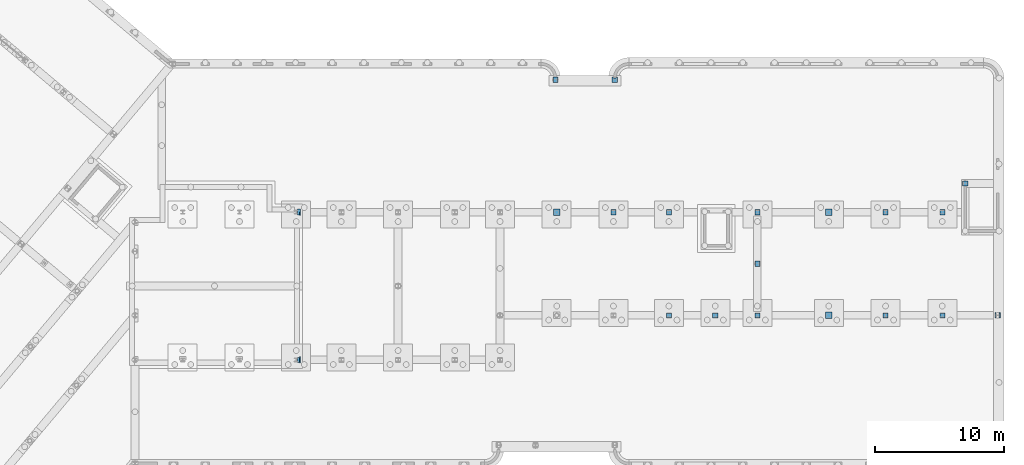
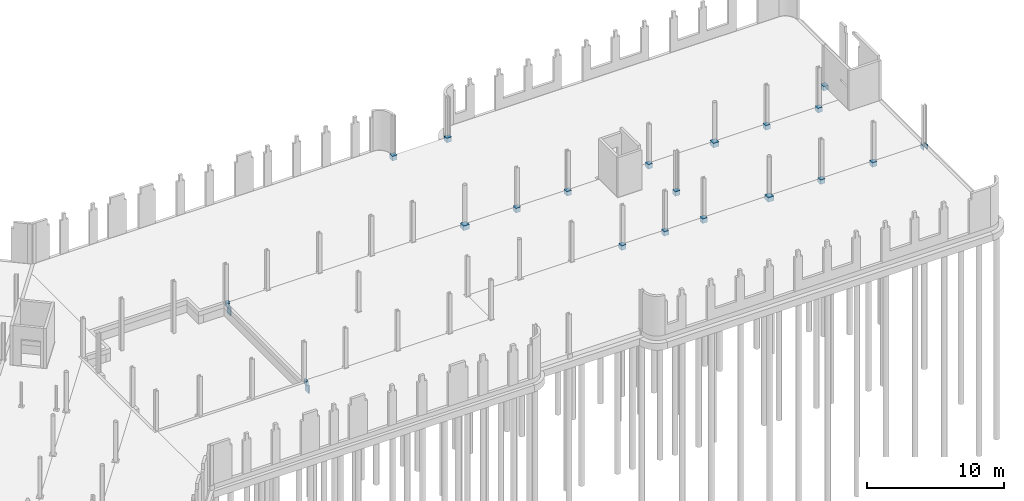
# One storey, part 17 of 26: 20 columns.
"""IFC2X3 building model written with IfcOpenShell, lengths in millimetres."""

from ifc_helpers import new_model, entity, si_unit, converted_unit, derived_unit, direction, frame, frame_2d, origin, place, context, subcontext, project, spatial, polyline, circle_curve, parameter, trimmed, segment, composite_curve, rectangle, outline, extrude, faceted_brep, source, transform, mapped, material, type_object, type_shapes, element, save


model = new_model("IFC2X3")

# Units and contexts
model_context = context("Model", 3, precision=0.01, world=origin(), true_north=direction((6.123031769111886e-17, 1.0)))
body_context = subcontext(model_context, "Body", "Model", "MODEL_VIEW")
ifc_project = project(units=[si_unit("LENGTHUNIT", "METRE", prefix="MILLI"), si_unit("AREAUNIT", "SQUARE_METRE"), si_unit("VOLUMEUNIT", "CUBIC_METRE"), derived_unit("MASSDENSITYUNIT", [(si_unit("MASSUNIT", "GRAM", prefix="KILO"), 1), (si_unit("LENGTHUNIT", "METRE"), -3)]), si_unit("MASSUNIT", "GRAM", prefix="KILO"), converted_unit("PLANEANGLEUNIT", "DEGREE", entity("IfcPlaneAngleMeasure", 0.017453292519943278), si_unit("PLANEANGLEUNIT", "RADIAN"), dimensions=[0, 0, 0, 0, 0, 0, 0])], contexts=[model_context])

# Site, building, storey
site_placement = place(None, origin())
site = spatial("IfcSite", under=ifc_project, at=site_placement, Name="Default", CompositionType="ELEMENT")
building_placement = place(site_placement, origin())
building = spatial("IfcBuilding", under=site, at=building_placement, Name="AT constructie", CompositionType="ELEMENT")
storey_placement = place(building_placement, origin())
storey = spatial("IfcBuildingStorey", under=building, at=storey_placement, Name="00 begane grond", CompositionType="ELEMENT", Elevation=-1.0828671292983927e-12)

# Columns
ifc_material = material(Name="f2_beton ihwg_gen")
column_type_1 = type_object("IfcColumnType", Name="opstorting vierkant_gen_lxb 400x400", PredefinedType="COLUMN", material=ifc_material)
shared_shape_1 = source(origin(), body_context, "Body", "SweptSolid", [
    extrude(outline(composite_curve([segment(polyline([(-213.7082373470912, -134.4444444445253), (-159.290694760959, -134.4444444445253)]), True, "CONTINUOUS"), segment(trimmed(circle_curve(frame_2d((-1106.7082373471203, -64.4444444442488), x_axis=(-1.0, 0.0)), 950.0000000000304), [parameter(175.77437608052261)], [parameter(179.99999999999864)], True, "PARAMETER"), True, "CONTINUOUS"), segment(polyline([(-156.70823734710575, -64.4444444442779), (93.2917626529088, -64.4444444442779)]), True, "CONTINUOUS"), segment(trimmed(circle_curve(frame_2d((-1106.7082373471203, -64.4444444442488), x_axis=(-1.0, 0.0)), 1200.0000000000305), [parameter(176.6558477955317)], [parameter(179.99999999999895)], True, "PARAMETER"), False, "CONTINUOUS"), segment(polyline([(91.24835619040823, -134.4444444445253), (186.2917626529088, -134.4444444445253)]), True, "CONTINUOUS"), segment(polyline([(186.2917626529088, -134.4444444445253), (186.2917626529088, 135.55555555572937)]), True, "CONTINUOUS"), segment(polyline([(186.2917626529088, 135.55555555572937), (186.2917626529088, 265.5555555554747)]), True, "CONTINUOUS"), segment(polyline([(186.2917626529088, 265.5555555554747), (-213.7082373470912, 265.5555555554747)]), True, "CONTINUOUS"), segment(polyline([(-213.7082373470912, 265.5555555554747), (-213.7082373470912, -134.4444444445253)]), True, "CONTINUOUS")], self_intersect=False)), frame((78340.16639376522, 41606.59906408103, -450.0), z_axis=(0.0, 0.0, 1.0), x_axis=(-1.0, 0.0, 0.0)), (0.0, 0.0, 1.0), 400.0),
])
type_shapes(column_type_1, [shared_shape_1])
column_1_placement = place(storey_placement, origin())
element("IfcColumn", 1, at=column_1_placement, inside=storey, type_object=column_type_1, material=ifc_material, Name="NLRS_16_SC_TLB_opstorting beton_gen_AT:opstorting vierkant_gen_lxb 400x400", ObjectType="NLRS_16_SC_TLB_opstorting beton_gen_AT:opstorting vierkant_gen_lxb 400x400", context=body_context, shape_type="MappedRepresentation", body=[
    mapped(shared_shape_1, transform((0.0, 0.0, 0.0), scale=1.0)),
])
column_type_2 = type_object("IfcColumnType", Name="opstorting vierkant_gen_lxb 400x400", PredefinedType="COLUMN", material=ifc_material)
shared_shape_2 = source(origin(), body_context, "Body", "SweptSolid", [
    extrude(rectangle(XDim=399.9999999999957, YDim=399.9999999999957, at=frame_2d((19.624877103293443, 47.14285714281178), x_axis=(1.0, 0.0))), frame((73770.49950641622, 41588.18636566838, -450.0), z_axis=(0.0, 0.0, 1.0), x_axis=(-1.0, 0.0, 0.0)), (0.0, 0.0, 1.0), 400.0),
])
type_shapes(column_type_2, [shared_shape_2])
column_2_placement = place(storey_placement, origin())
element("IfcColumn", 2, at=column_2_placement, inside=storey, type_object=column_type_2, material=ifc_material, Name="NLRS_16_SC_TLB_opstorting beton_gen_AT:opstorting vierkant_gen_lxb 400x400", ObjectType="NLRS_16_SC_TLB_opstorting beton_gen_AT:opstorting vierkant_gen_lxb 400x400", context=body_context, shape_type="MappedRepresentation", body=[
    mapped(shared_shape_2, transform((0.0, 0.0, 0.0), scale=1.0)),
])
column_type_3 = type_object("IfcColumnType", Name="opstorting vierkant_gen_lxb 400x400", PredefinedType="COLUMN", material=ifc_material)
shared_shape_3 = source(origin(), body_context, "Body", "SweptSolid", [
    extrude(rectangle(XDim=399.9999999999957, YDim=400.0, at=frame_2d((5.993452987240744e-07, -66.66666666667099), x_axis=(1.0, 0.0))), frame((105525.87463369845, 33434.376841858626, -450.0), z_axis=(0.0, 0.0, 1.0), x_axis=(-1.0, 0.0, 0.0)), (0.0, 0.0, 1.0), 400.0),
])
type_shapes(column_type_3, [shared_shape_3])
column_3_placement = place(storey_placement, origin())
element("IfcColumn", 3, at=column_3_placement, inside=storey, type_object=column_type_3, material=ifc_material, Name="NLRS_16_SC_TLB_opstorting beton_gen_AT:opstorting vierkant_gen_lxb 400x400", ObjectType="NLRS_16_SC_TLB_opstorting beton_gen_AT:opstorting vierkant_gen_lxb 400x400", context=body_context, shape_type="MappedRepresentation", body=[
    mapped(shared_shape_3, transform((0.0, 0.0, 0.0), scale=1.0)),
])
column_type_4 = type_object("IfcColumnType", Name="opstorting vierkant_gen_lxb 400x400", PredefinedType="COLUMN", material=ifc_material)
shared_shape_4 = source(origin(), body_context, "Body", "SweptSolid", [
    extrude(rectangle(XDim=399.9999999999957, YDim=400.0, at=frame_2d((-8.668621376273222e-12, 1.0828671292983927e-11), x_axis=(1.0, 0.0))), frame((103752.37462931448, 31271.043508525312, -450.0), z_axis=(0.0, 0.0, 1.0), x_axis=(-1.0, 0.0, 0.0)), (0.0, 0.0, 1.0), 400.0),
])
type_shapes(column_type_4, [shared_shape_4])
column_4_placement = place(storey_placement, origin())
element("IfcColumn", 4, at=column_4_placement, inside=storey, type_object=column_type_4, material=ifc_material, Name="NLRS_16_SC_TLB_opstorting beton_gen_AT:opstorting vierkant_gen_lxb 400x400", ObjectType="NLRS_16_SC_TLB_opstorting beton_gen_AT:opstorting vierkant_gen_lxb 400x400", context=body_context, shape_type="MappedRepresentation", body=[
    mapped(shared_shape_4, transform((0.0, 0.0, 0.0), scale=1.0)),
])
column_type_5 = type_object("IfcColumnType", Name="opstorting vierkant_gen_lxb 400x400", PredefinedType="COLUMN", material=ifc_material)
shared_shape_5 = source(origin(), body_context, "Body", "SweptSolid", [
    extrude(rectangle(XDim=102.49999820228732, YDim=400.0, at=frame_2d((0.0, -2.1742607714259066e-12), x_axis=(1.0, 0.0))), frame((108198.1246302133, 23271.04350852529, -450.0), z_axis=(0.0, 0.0, 1.0), x_axis=(-1.0, 0.0, 0.0)), (0.0, 0.0, 1.0), 400.0),
    extrude(rectangle(XDim=47.50000179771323, YDim=400.0, at=frame_2d((4.750000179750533, -6.494360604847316e-12), x_axis=(1.0, 0.0))), frame((107868.37463003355, 23271.0435085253, -450.0)), (0.0, 0.0, 1.0), 400.0),
])
type_shapes(column_type_5, [shared_shape_5])
column_5_placement = place(storey_placement, origin())
element("IfcColumn", 5, at=column_5_placement, inside=storey, type_object=column_type_5, material=ifc_material, Name="NLRS_16_SC_TLB_opstorting beton_gen_AT:opstorting vierkant_gen_lxb 400x400", ObjectType="NLRS_16_SC_TLB_opstorting beton_gen_AT:opstorting vierkant_gen_lxb 400x400", context=body_context, shape_type="MappedRepresentation", body=[
    mapped(shared_shape_5, transform((0.0, 0.0, 0.0), scale=1.0)),
])
column_type_6 = type_object("IfcColumnType", Name="opstorting vierkant_gen_lxb 400x400", PredefinedType="COLUMN", material=ifc_material)
shared_shape_6 = source(origin(), body_context, "Body", "SweptSolid", [
    extrude(rectangle(XDim=399.9999999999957, YDim=400.0, at=frame_2d((-8.668621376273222e-12, 2.1742607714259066e-12), x_axis=(1.0, 0.0))), frame((103752.37462931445, 23271.043508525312, -450.0), z_axis=(0.0, 0.0, 1.0), x_axis=(-1.0, 0.0, 0.0)), (0.0, 0.0, 1.0), 400.0),
])
type_shapes(column_type_6, [shared_shape_6])
column_6_placement = place(storey_placement, origin())
element("IfcColumn", 6, at=column_6_placement, inside=storey, type_object=column_type_6, material=ifc_material, Name="NLRS_16_SC_TLB_opstorting beton_gen_AT:opstorting vierkant_gen_lxb 400x400", ObjectType="NLRS_16_SC_TLB_opstorting beton_gen_AT:opstorting vierkant_gen_lxb 400x400", context=body_context, shape_type="MappedRepresentation", body=[
    mapped(shared_shape_6, transform((0.0, 0.0, 0.0), scale=1.0)),
])
column_type_7 = type_object("IfcColumnType", Name="opstorting vierkant_gen_lxb 400x400", PredefinedType="COLUMN", material=ifc_material)
shared_shape_7 = source(origin(), body_context, "Body", "SweptSolid", [
    extrude(rectangle(XDim=399.9999999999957, YDim=400.0, at=frame_2d((-8.668621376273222e-12, -2.1742607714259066e-12), x_axis=(1.0, 0.0))), frame((99352.37462931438, 23271.043508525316, -450.0), z_axis=(0.0, 0.0, 1.0), x_axis=(-1.0, 0.0, 0.0)), (0.0, 0.0, 1.0), 400.0),
])
type_shapes(column_type_7, [shared_shape_7])
column_7_placement = place(storey_placement, origin())
element("IfcColumn", 7, at=column_7_placement, inside=storey, type_object=column_type_7, material=ifc_material, Name="NLRS_16_SC_TLB_opstorting beton_gen_AT:opstorting vierkant_gen_lxb 400x400", ObjectType="NLRS_16_SC_TLB_opstorting beton_gen_AT:opstorting vierkant_gen_lxb 400x400", context=body_context, shape_type="MappedRepresentation", body=[
    mapped(shared_shape_7, transform((0.0, 0.0, 0.0), scale=1.0)),
])
column_type_8 = type_object("IfcColumnType", Name="opstorting vierkant_gen_lxb 500x500", PredefinedType="COLUMN", material=ifc_material)
shared_shape_8 = source(origin(), body_context, "Body", "SweptSolid", [
    extrude(rectangle(XDim=500.0000000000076, YDim=499.999999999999, at=frame_2d((8.668621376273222e-12, -8.65441052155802e-12), x_axis=(1.0, 0.0))), frame((94952.37462931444, 23271.043508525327, -450.0), z_axis=(0.0, 0.0, 1.0), x_axis=(-1.0, 0.0, 0.0)), (0.0, 0.0, 1.0), 400.0),
])
type_shapes(column_type_8, [shared_shape_8])
column_8_placement = place(storey_placement, origin())
element("IfcColumn", 8, at=column_8_placement, inside=storey, type_object=column_type_8, material=ifc_material, Name="NLRS_16_SC_TLB_opstorting beton_gen_AT:opstorting vierkant_gen_lxb 500x500", ObjectType="NLRS_16_SC_TLB_opstorting beton_gen_AT:opstorting vierkant_gen_lxb 500x500", context=body_context, shape_type="MappedRepresentation", body=[
    mapped(shared_shape_8, transform((0.0, 0.0, 0.0), scale=1.0)),
])
column_type_9 = type_object("IfcColumnType", Name="opstorting vierkant_gen_lxb 400x400", PredefinedType="COLUMN", material=ifc_material)
shared_shape_9 = source(origin(), body_context, "Body", "SweptSolid", [
    extrude(rectangle(XDim=399.9999999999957, YDim=400.0, at=frame_2d((8.668621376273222e-12, -1.5162981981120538e-11), x_axis=(1.0, 0.0))), frame((89407.37463111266, 23271.043508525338, -450.0), z_axis=(0.0, 0.0, 1.0), x_axis=(-1.0, 0.0, 0.0)), (0.0, 0.0, 1.0), 400.0),
])
type_shapes(column_type_9, [shared_shape_9])
column_9_placement = place(storey_placement, origin())
element("IfcColumn", 9, at=column_9_placement, inside=storey, type_object=column_type_9, material=ifc_material, Name="NLRS_16_SC_TLB_opstorting beton_gen_AT:opstorting vierkant_gen_lxb 400x400", ObjectType="NLRS_16_SC_TLB_opstorting beton_gen_AT:opstorting vierkant_gen_lxb 400x400", context=body_context, shape_type="MappedRepresentation", body=[
    mapped(shared_shape_9, transform((0.0, 0.0, 0.0), scale=1.0)),
])
column_type_10 = type_object("IfcColumnType", Name="opstorting vierkant_gen_lxb 400x400", PredefinedType="COLUMN", material=ifc_material)
shared_shape_10 = source(origin(), body_context, "Body", "SweptSolid", [
    extrude(rectangle(XDim=399.9999999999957, YDim=400.0, at=frame_2d((-8.668621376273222e-12, -1.9483081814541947e-11), x_axis=(1.0, 0.0))), frame((86146.87463111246, 23271.04350852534, -450.0), z_axis=(0.0, 0.0, 1.0), x_axis=(-1.0, 0.0, 0.0)), (0.0, 0.0, 1.0), 400.0),
])
type_shapes(column_type_10, [shared_shape_10])
column_10_placement = place(storey_placement, origin())
element("IfcColumn", 10, at=column_10_placement, inside=storey, type_object=column_type_10, material=ifc_material, Name="NLRS_16_SC_TLB_opstorting beton_gen_AT:opstorting vierkant_gen_lxb 400x400", ObjectType="NLRS_16_SC_TLB_opstorting beton_gen_AT:opstorting vierkant_gen_lxb 400x400", context=body_context, shape_type="MappedRepresentation", body=[
    mapped(shared_shape_10, transform((0.0, 0.0, 0.0), scale=1.0)),
])
column_type_11 = type_object("IfcColumnType", Name="opstorting vierkant_gen_lxb 400x400", PredefinedType="COLUMN", material=ifc_material)
shared_shape_11 = source(origin(), body_context, "Body", "SweptSolid", [
    extrude(rectangle(XDim=399.9999999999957, YDim=400.0, at=frame_2d((-8.668621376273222e-12, -1.9483081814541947e-11), x_axis=(1.0, 0.0))), frame((82546.8746311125, 23271.043508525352, -450.0), z_axis=(0.0, 0.0, 1.0), x_axis=(-1.0, 0.0, 0.0)), (0.0, 0.0, 1.0), 400.0),
])
type_shapes(column_type_11, [shared_shape_11])
column_11_placement = place(storey_placement, origin())
element("IfcColumn", 11, at=column_11_placement, inside=storey, type_object=column_type_11, material=ifc_material, Name="NLRS_16_SC_TLB_opstorting beton_gen_AT:opstorting vierkant_gen_lxb 400x400", ObjectType="NLRS_16_SC_TLB_opstorting beton_gen_AT:opstorting vierkant_gen_lxb 400x400", context=body_context, shape_type="MappedRepresentation", body=[
    mapped(shared_shape_11, transform((0.0, 0.0, 0.0), scale=1.0)),
])
column_type_12 = type_object("IfcColumnType", Name="opstorting vierkant_gen_lxb 400x400", PredefinedType="COLUMN", material=ifc_material)
shared_shape_12 = source(origin(), body_context, "Body", "SweptSolid", [
    extrude(rectangle(XDim=399.9999999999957, YDim=400.0, at=frame_2d((8.668621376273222e-12, 2.1742607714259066e-12), x_axis=(1.0, 0.0))), frame((89407.37463111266, 27271.04350852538, -450.0), z_axis=(0.0, 0.0, 1.0), x_axis=(-1.0, 0.0, 0.0)), (0.0, 0.0, 1.0), 400.0),
])
type_shapes(column_type_12, [shared_shape_12])
column_12_placement = place(storey_placement, origin())
element("IfcColumn", 12, at=column_12_placement, inside=storey, type_object=column_type_12, material=ifc_material, Name="NLRS_16_SC_TLB_opstorting beton_gen_AT:opstorting vierkant_gen_lxb 400x400", ObjectType="NLRS_16_SC_TLB_opstorting beton_gen_AT:opstorting vierkant_gen_lxb 400x400", context=body_context, shape_type="MappedRepresentation", body=[
    mapped(shared_shape_12, transform((0.0, 0.0, 0.0), scale=1.0)),
])
column_type_13 = type_object("IfcColumnType", Name="opstorting vierkant_gen_lxb 400x400", PredefinedType="COLUMN", material=ifc_material)
shared_shape_13 = source(origin(), body_context, "Body", "SweptSolid", [
    extrude(rectangle(XDim=399.9999999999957, YDim=400.0, at=frame_2d((8.668621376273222e-12, -2.1742607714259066e-12), x_axis=(1.0, 0.0))), frame((89407.37463111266, 31271.043508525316, -450.0), z_axis=(0.0, 0.0, 1.0), x_axis=(-1.0, 0.0, 0.0)), (0.0, 0.0, 1.0), 400.0),
])
type_shapes(column_type_13, [shared_shape_13])
column_13_placement = place(storey_placement, origin())
element("IfcColumn", 13, at=column_13_placement, inside=storey, type_object=column_type_13, material=ifc_material, Name="NLRS_16_SC_TLB_opstorting beton_gen_AT:opstorting vierkant_gen_lxb 400x400", ObjectType="NLRS_16_SC_TLB_opstorting beton_gen_AT:opstorting vierkant_gen_lxb 400x400", context=body_context, shape_type="MappedRepresentation", body=[
    mapped(shared_shape_13, transform((0.0, 0.0, 0.0), scale=1.0)),
])
column_type_14 = type_object("IfcColumnType", Name="opstorting vierkant_gen_lxb 500x500", PredefinedType="COLUMN", material=ifc_material)
shared_shape_14 = source(origin(), body_context, "Body", "SweptSolid", [
    extrude(rectangle(XDim=500.0000000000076, YDim=499.999999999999, at=frame_2d((-8.668621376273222e-12, 4.334310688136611e-12), x_axis=(1.0, 0.0))), frame((94946.87463111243, 31271.043508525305, -450.0), z_axis=(0.0, 0.0, 1.0), x_axis=(-1.0, 0.0, 0.0)), (0.0, 0.0, 1.0), 400.0),
])
type_shapes(column_type_14, [shared_shape_14])
column_14_placement = place(storey_placement, origin())
element("IfcColumn", 14, at=column_14_placement, inside=storey, type_object=column_type_14, material=ifc_material, Name="NLRS_16_SC_TLB_opstorting beton_gen_AT:opstorting vierkant_gen_lxb 500x500", ObjectType="NLRS_16_SC_TLB_opstorting beton_gen_AT:opstorting vierkant_gen_lxb 500x500", context=body_context, shape_type="MappedRepresentation", body=[
    mapped(shared_shape_14, transform((0.0, 0.0, 0.0), scale=1.0)),
])
column_type_15 = type_object("IfcColumnType", Name="opstorting vierkant_gen_lxb 400x400", PredefinedType="COLUMN", material=ifc_material)
shared_shape_15 = source(origin(), body_context, "Body", "SweptSolid", [
    extrude(rectangle(XDim=399.9999999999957, YDim=400.0, at=frame_2d((8.668621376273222e-12, 1.5162981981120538e-11), x_axis=(1.0, 0.0))), frame((99346.8746311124, 31271.0435085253, -450.0), z_axis=(0.0, 0.0, 1.0), x_axis=(-1.0, 0.0, 0.0)), (0.0, 0.0, 1.0), 400.0),
])
type_shapes(column_type_15, [shared_shape_15])
column_15_placement = place(storey_placement, origin())
element("IfcColumn", 15, at=column_15_placement, inside=storey, type_object=column_type_15, material=ifc_material, Name="NLRS_16_SC_TLB_opstorting beton_gen_AT:opstorting vierkant_gen_lxb 400x400", ObjectType="NLRS_16_SC_TLB_opstorting beton_gen_AT:opstorting vierkant_gen_lxb 400x400", context=body_context, shape_type="MappedRepresentation", body=[
    mapped(shared_shape_15, transform((0.0, 0.0, 0.0), scale=1.0)),
])
column_type_16 = type_object("IfcColumnType", Name="opstorting vierkant_gen_lxb 400x400", PredefinedType="COLUMN", material=ifc_material)
shared_shape_16 = source(origin(), body_context, "Body", "SweptSolid", [
    extrude(rectangle(XDim=399.9999999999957, YDim=400.0, at=frame_2d((8.668621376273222e-12, -1.0828671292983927e-11), x_axis=(1.0, 0.0))), frame((82546.87463111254, 31271.043508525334, -450.0), z_axis=(0.0, 0.0, 1.0), x_axis=(-1.0, 0.0, 0.0)), (0.0, 0.0, 1.0), 400.0),
])
type_shapes(column_type_16, [shared_shape_16])
column_16_placement = place(storey_placement, origin())
element("IfcColumn", 16, at=column_16_placement, inside=storey, type_object=column_type_16, material=ifc_material, Name="NLRS_16_SC_TLB_opstorting beton_gen_AT:opstorting vierkant_gen_lxb 400x400", ObjectType="NLRS_16_SC_TLB_opstorting beton_gen_AT:opstorting vierkant_gen_lxb 400x400", context=body_context, shape_type="MappedRepresentation", body=[
    mapped(shared_shape_16, transform((0.0, 0.0, 0.0), scale=1.0)),
])
column_type_17 = type_object("IfcColumnType", Name="opstorting vierkant_gen_lxb 400x400", PredefinedType="COLUMN", material=ifc_material)
shared_shape_17 = source(origin(), body_context, "Body", "SweptSolid", [
    extrude(rectangle(XDim=399.9999999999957, YDim=400.0, at=frame_2d((8.668621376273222e-12, -1.5162981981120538e-11), x_axis=(1.0, 0.0))), frame((78246.87463111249, 31271.043508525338, -450.0), z_axis=(0.0, 0.0, 1.0), x_axis=(-1.0, 0.0, 0.0)), (0.0, 0.0, 1.0), 400.0),
])
type_shapes(column_type_17, [shared_shape_17])
column_17_placement = place(storey_placement, origin())
element("IfcColumn", 17, at=column_17_placement, inside=storey, type_object=column_type_17, material=ifc_material, Name="NLRS_16_SC_TLB_opstorting beton_gen_AT:opstorting vierkant_gen_lxb 400x400", ObjectType="NLRS_16_SC_TLB_opstorting beton_gen_AT:opstorting vierkant_gen_lxb 400x400", context=body_context, shape_type="MappedRepresentation", body=[
    mapped(shared_shape_17, transform((0.0, 0.0, 0.0), scale=1.0)),
])
column_type_18 = type_object("IfcColumnType", Name="opstorting vierkant_gen_lxb 500x500", PredefinedType="COLUMN", material=ifc_material)
shared_shape_18 = source(origin(), body_context, "Body", "SweptSolid", [
    extrude(rectangle(XDim=499.999999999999, YDim=499.999999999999, at=frame_2d((4.334310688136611e-12, -1.7323031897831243e-11), x_axis=(1.0, 0.0))), frame((73846.87463111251, 31271.043508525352, -450.0), z_axis=(0.0, 0.0, 1.0), x_axis=(-1.0, 0.0, 0.0)), (0.0, 0.0, 1.0), 400.0),
])
type_shapes(column_type_18, [shared_shape_18])
column_18_placement = place(storey_placement, origin())
element("IfcColumn", 18, at=column_18_placement, inside=storey, type_object=column_type_18, material=ifc_material, Name="NLRS_16_SC_TLB_opstorting beton_gen_AT:opstorting vierkant_gen_lxb 500x500", ObjectType="NLRS_16_SC_TLB_opstorting beton_gen_AT:opstorting vierkant_gen_lxb 500x500", context=body_context, shape_type="MappedRepresentation", body=[
    mapped(shared_shape_18, transform((0.0, 0.0, 0.0), scale=1.0)),
])
column_type_19 = type_object("IfcColumnType", Name="opstorting vierkant_gen_lxb 500x500", PredefinedType="COLUMN", material=ifc_material)
shared_shape_19 = source(origin(), body_context, "Body", "Brep", [
    faceted_brep([(53896.87463111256, 19621.043508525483, -50.0), (53896.87463111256, 19821.04350852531, -50.0), (53896.87463111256, 20021.04350852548, -50.0), (53746.87463111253, 20021.04350852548, -50.0), (53746.87463111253, 19621.043508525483, -50.0), (53996.87463111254, 20071.043508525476, -1154.0), (53996.87463111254, 19571.04350852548, -1154.0), (53896.87463111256, 19571.04350852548, -1154.0), (53896.87463111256, 20071.043508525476, -1154.0), (53896.87463111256, 20071.043508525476, -1050.0), (53896.87463111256, 20071.043508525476, -450.0), (53996.87463111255, 20071.043508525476, -450.0), (53996.87463111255, 20071.043508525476, -1050.0), (53896.87463111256, 19571.04350852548, -450.0), (53896.87463111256, 19571.04350852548, -1050.0), (53996.87463111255, 19571.04350852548, -1050.0), (53996.87463111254, 19571.04350852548, -450.0), (53746.87463111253, 20021.04350852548, -450.0), (53746.87463111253, 19621.043508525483, -450.0), (53896.87463111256, 20021.04350852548, -450.0), (53896.87463111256, 19821.04350852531, -450.0), (53896.87463111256, 19621.043508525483, -450.0)], [[[0, 1, 2, 3, 4]], [[5, 6, 7, 8]], [[8, 9, 10, 11, 12, 5]], [[13, 14, 7, 6, 15, 16]], [[6, 5, 12, 11, 16, 15]], [[3, 17, 18, 4]], [[17, 19, 20, 21, 18]], [[8, 7, 14, 13, 21, 20, 19, 10, 9]], [[21, 13, 16, 11, 10, 19, 20]], [[21, 20, 19, 2, 1, 0]], [[2, 19, 17, 3]], [[21, 0, 4, 18]]]),
])
type_shapes(column_type_19, [shared_shape_19])
column_19_placement = place(storey_placement, origin())
element("IfcColumn", 19, at=column_19_placement, inside=storey, type_object=column_type_19, material=ifc_material, Name="NLRS_16_SC_TLB_opstorting beton_gen_AT:opstorting vierkant_gen_lxb 500x500", ObjectType="NLRS_16_SC_TLB_opstorting beton_gen_AT:opstorting vierkant_gen_lxb 500x500", context=body_context, shape_type="MappedRepresentation", body=[
    mapped(shared_shape_19, transform((0.0, 0.0, 0.0), scale=1.0)),
])
column_type_20 = type_object("IfcColumnType", Name="opstorting vierkant_gen_lxb 500x500", PredefinedType="COLUMN", material=ifc_material)
shared_shape_20 = source(origin(), body_context, "Body", "Brep", [
    faceted_brep([(53996.874631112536, 31521.043508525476, -50.0), (53746.87463111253, 31521.043508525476, -50.0), (53746.87463111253, 31071.043508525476, -50.0), (53896.87463111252, 31071.043508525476, -50.0), (53896.87463111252, 31271.04350852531, -50.0), (53996.874631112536, 31271.04350852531, -50.0), (53996.874631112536, 31521.043508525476, -1154.0), (53996.874631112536, 31021.04350852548, -1154.0), (53896.87463111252, 31021.04350852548, -1154.0), (53896.87463111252, 31521.043508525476, -1154.0), (53996.87463111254, 31521.043508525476, -450.0), (53996.87463111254, 31521.043508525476, -1050.0), (53896.874631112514, 31521.043508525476, -1050.0), (53896.874631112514, 31521.043508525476, -450.0), (53746.87463111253, 31521.043508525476, -450.0), (53896.87463111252, 31021.04350852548, -450.0), (53896.87463111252, 31021.04350852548, -1050.0), (53996.87463111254, 31021.04350852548, -1050.0), (53996.874631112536, 31021.04350852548, -450.0), (53996.87463111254, 31271.04350852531, -450.0), (53746.87463111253, 31071.043508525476, -450.0), (53896.87463111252, 31071.043508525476, -450.0), (53896.87463111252, 31271.04350852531, -450.0)], [[[0, 1, 2, 3, 4, 5]], [[6, 7, 8, 9]], [[0, 10, 11, 6, 9, 12, 13, 14, 1]], [[15, 16, 8, 7, 17, 18]], [[7, 6, 11, 10, 0, 5, 19, 18, 17]], [[1, 14, 20, 2]], [[9, 8, 16, 15, 21, 22, 13, 12]], [[14, 13, 22, 21, 20]], [[22, 21, 15, 18, 19]], [[21, 3, 2, 20]], [[21, 22, 4, 3]], [[4, 22, 19, 5]]]),
])
type_shapes(column_type_20, [shared_shape_20])
column_20_placement = place(storey_placement, origin())
element("IfcColumn", 20, at=column_20_placement, inside=storey, type_object=column_type_20, material=ifc_material, Name="NLRS_16_SC_TLB_opstorting beton_gen_AT:opstorting vierkant_gen_lxb 500x500", ObjectType="NLRS_16_SC_TLB_opstorting beton_gen_AT:opstorting vierkant_gen_lxb 500x500", context=body_context, shape_type="MappedRepresentation", body=[
    mapped(shared_shape_20, transform((0.0, 0.0, 0.0), scale=1.0)),
])

save(model, "model.ifc")
